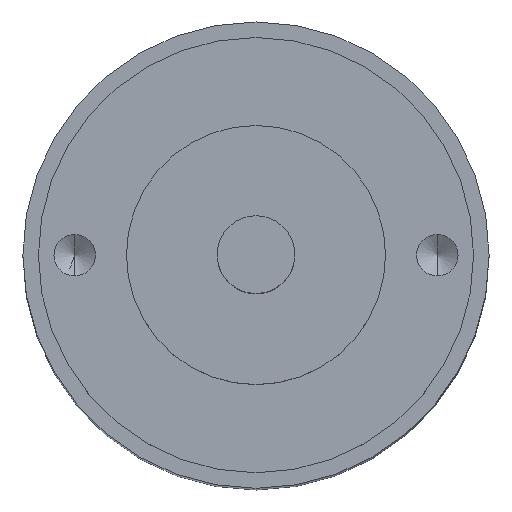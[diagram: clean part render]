
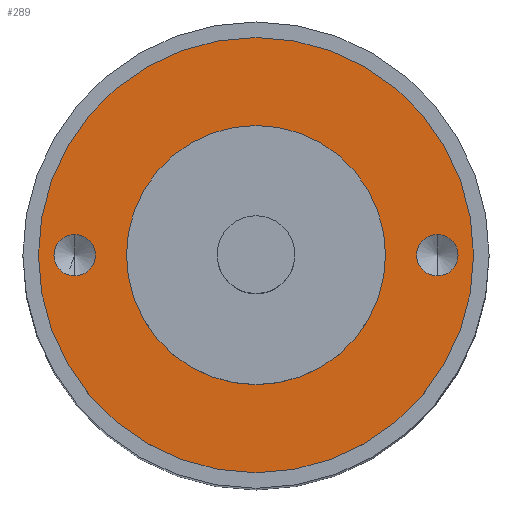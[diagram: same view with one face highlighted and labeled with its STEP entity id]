
A CAD part, top view. The second image highlights one B-rep face of the part: STEP entity #289.
In plain terms, the highlighted planar face has unit normal (0, 0, 1).
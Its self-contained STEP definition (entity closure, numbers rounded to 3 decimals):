
#10 = DIRECTION ( 'NONE',  ( 0., 0., -1. ) ) ;
#47 = EDGE_CURVE ( 'NONE', #2534, #1667, #2642, .T. ) ;
#71 = FACE_OUTER_BOUND ( 'NONE', #102, .T. ) ;
#78 = EDGE_LOOP ( 'NONE', ( #118, #412 ) ) ;
#99 = CARTESIAN_POINT ( 'NONE',  ( 0., 5., 0. ) ) ;
#102 = EDGE_LOOP ( 'NONE', ( #1418, #1785 ) ) ;
#112 = CARTESIAN_POINT ( 'NONE',  ( 7., 0.8, 0. ) ) ;
#118 = ORIENTED_EDGE ( 'NONE', *, *, #462, .F. ) ;
#135 = DIRECTION ( 'NONE',  ( 0., 1., 0. ) ) ;
#143 = DIRECTION ( 'NONE',  ( 0., -1., 0. ) ) ;
#149 = DIRECTION ( 'NONE',  ( 0., 0., -1. ) ) ;
#234 = AXIS2_PLACEMENT_3D ( 'NONE', #2069, #827, #143 ) ;
#289 = ADVANCED_FACE ( 'NONE', ( #785, #2946, #553, #71 ), #1747, .T. ) ;
#383 = AXIS2_PLACEMENT_3D ( 'NONE', #3015, #1499, #830 ) ;
#412 = ORIENTED_EDGE ( 'NONE', *, *, #1661, .F. ) ;
#441 = VERTEX_POINT ( 'NONE', #2717 ) ;
#462 = EDGE_CURVE ( 'NONE', #2274, #898, #2539, .T. ) ;
#529 = CIRCLE ( 'NONE', #2710, 0.8 ) ;
#548 = DIRECTION ( 'NONE',  ( 0., 1., 0. ) ) ;
#553 = FACE_BOUND ( 'NONE', #696, .T. ) ;
#614 = EDGE_CURVE ( 'NONE', #2311, #2507, #529, .T. ) ;
#650 = EDGE_LOOP ( 'NONE', ( #1963, #2714 ) ) ;
#668 = CARTESIAN_POINT ( 'NONE',  ( 7., -0.8, 0. ) ) ;
#696 = EDGE_LOOP ( 'NONE', ( #1001, #2090 ) ) ;
#780 = CARTESIAN_POINT ( 'NONE',  ( 0., -8.4, 0. ) ) ;
#785 = FACE_BOUND ( 'NONE', #78, .T. ) ;
#789 = VERTEX_POINT ( 'NONE', #780 ) ;
#807 = EDGE_CURVE ( 'NONE', #1667, #2534, #2252, .T. ) ;
#824 = DIRECTION ( 'NONE',  ( 0., 0., -1. ) ) ;
#827 = DIRECTION ( 'NONE',  ( 0., 0., 1. ) ) ;
#830 = DIRECTION ( 'NONE',  ( 0., -1., 0. ) ) ;
#864 = CARTESIAN_POINT ( 'NONE',  ( 0., 0., 0. ) ) ;
#898 = VERTEX_POINT ( 'NONE', #112 ) ;
#917 = AXIS2_PLACEMENT_3D ( 'NONE', #2298, #2333, #135 ) ;
#952 = CARTESIAN_POINT ( 'NONE',  ( -7., -0.8, 0. ) ) ;
#1001 = ORIENTED_EDGE ( 'NONE', *, *, #807, .T. ) ;
#1148 = DIRECTION ( 'NONE',  ( 0., -1., 0. ) ) ;
#1162 = DIRECTION ( 'NONE',  ( 0., -1., 0. ) ) ;
#1392 = CARTESIAN_POINT ( 'NONE',  ( 0., -5., 0. ) ) ;
#1398 = CIRCLE ( 'NONE', #383, 0.8 ) ;
#1418 = ORIENTED_EDGE ( 'NONE', *, *, #2327, .F. ) ;
#1439 = AXIS2_PLACEMENT_3D ( 'NONE', #1467, #10, #2443 ) ;
#1467 = CARTESIAN_POINT ( 'NONE',  ( 0., 0., 0. ) ) ;
#1499 = DIRECTION ( 'NONE',  ( 0., 0., 1. ) ) ;
#1510 = EDGE_CURVE ( 'NONE', #789, #441, #2657, .T. ) ;
#1515 = DIRECTION ( 'NONE',  ( 0., -1., 0. ) ) ;
#1538 = AXIS2_PLACEMENT_3D ( 'NONE', #1539, #824, #548 ) ;
#1539 = CARTESIAN_POINT ( 'NONE',  ( 0., 0., 0. ) ) ;
#1661 = EDGE_CURVE ( 'NONE', #898, #2274, #1398, .T. ) ;
#1667 = VERTEX_POINT ( 'NONE', #1798 ) ;
#1731 = DIRECTION ( 'NONE',  ( 0., 0., 1. ) ) ;
#1747 = PLANE ( 'NONE',  #2083 ) ;
#1785 = ORIENTED_EDGE ( 'NONE', *, *, #1510, .F. ) ;
#1798 = CARTESIAN_POINT ( 'NONE',  ( 0., 5., 0. ) ) ;
#1823 = AXIS2_PLACEMENT_3D ( 'NONE', #2583, #3043, #1148 ) ;
#1963 = ORIENTED_EDGE ( 'NONE', *, *, #614, .F. ) ;
#2069 = CARTESIAN_POINT ( 'NONE',  ( -7., 0., 0. ) ) ;
#2083 = AXIS2_PLACEMENT_3D ( 'NONE', #99, #1731, #1515 ) ;
#2090 = ORIENTED_EDGE ( 'NONE', *, *, #47, .T. ) ;
#2183 = CARTESIAN_POINT ( 'NONE',  ( -7., 0.8, 0. ) ) ;
#2239 = CIRCLE ( 'NONE', #2954, 8.4 ) ;
#2252 = CIRCLE ( 'NONE', #1538, 5. ) ;
#2274 = VERTEX_POINT ( 'NONE', #668 ) ;
#2298 = CARTESIAN_POINT ( 'NONE',  ( 0., 0., 0. ) ) ;
#2311 = VERTEX_POINT ( 'NONE', #952 ) ;
#2327 = EDGE_CURVE ( 'NONE', #441, #789, #2239, .T. ) ;
#2333 = DIRECTION ( 'NONE',  ( 0., 0., -1. ) ) ;
#2443 = DIRECTION ( 'NONE',  ( 0., 1., 0. ) ) ;
#2507 = VERTEX_POINT ( 'NONE', #2183 ) ;
#2534 = VERTEX_POINT ( 'NONE', #1392 ) ;
#2539 = CIRCLE ( 'NONE', #1823, 0.8 ) ;
#2583 = CARTESIAN_POINT ( 'NONE',  ( 7., 0., 0. ) ) ;
#2642 = CIRCLE ( 'NONE', #917, 5. ) ;
#2657 = CIRCLE ( 'NONE', #1439, 8.4 ) ;
#2676 = CARTESIAN_POINT ( 'NONE',  ( -7., 0., 0. ) ) ;
#2710 = AXIS2_PLACEMENT_3D ( 'NONE', #2676, #2924, #1162 ) ;
#2714 = ORIENTED_EDGE ( 'NONE', *, *, #2905, .F. ) ;
#2717 = CARTESIAN_POINT ( 'NONE',  ( 0., 8.4, 0. ) ) ;
#2727 = CIRCLE ( 'NONE', #234, 0.8 ) ;
#2839 = DIRECTION ( 'NONE',  ( 0., 1., 0. ) ) ;
#2905 = EDGE_CURVE ( 'NONE', #2507, #2311, #2727, .T. ) ;
#2924 = DIRECTION ( 'NONE',  ( 0., 0., 1. ) ) ;
#2946 = FACE_BOUND ( 'NONE', #650, .T. ) ;
#2954 = AXIS2_PLACEMENT_3D ( 'NONE', #864, #149, #2839 ) ;
#3015 = CARTESIAN_POINT ( 'NONE',  ( 7., 0., 0. ) ) ;
#3043 = DIRECTION ( 'NONE',  ( 0., 0., 1. ) ) ;
